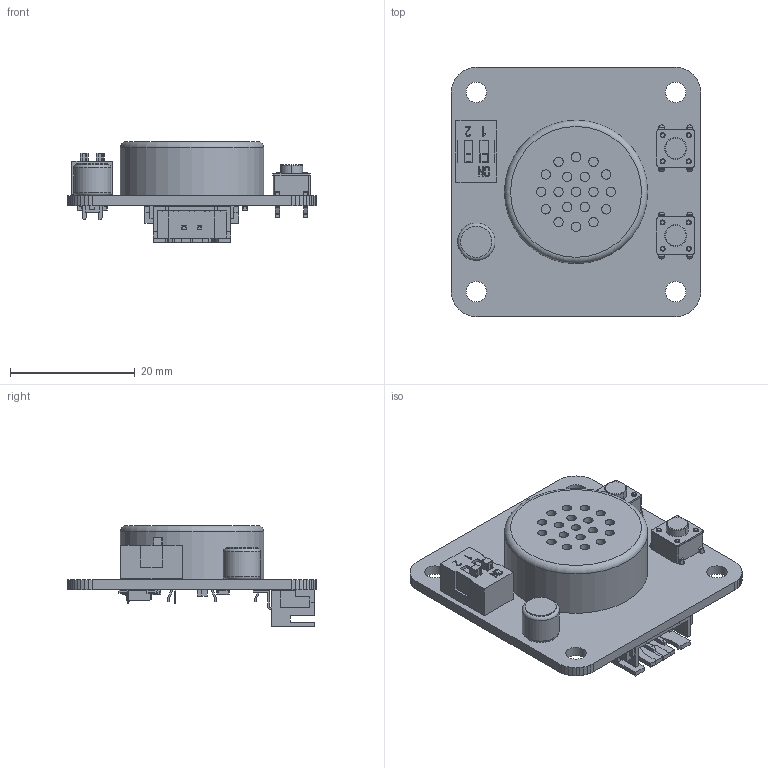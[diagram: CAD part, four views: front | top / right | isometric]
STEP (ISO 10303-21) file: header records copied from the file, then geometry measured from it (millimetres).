
FILE_DESCRIPTION(('Open CASCADE Model'),'2;1');
FILE_NAME('Open CASCADE Shape Model','2024-09-22T14:19:05',('Author'),( 'Open CASCADE'),'Open CASCADE STEP processor 6.5','Open CASCADE 6.5' ,'Unknown');
FILE_SCHEMA(('AUTOMOTIVE_DESIGN { 1 0 10303 214 1 1 1 1 }'));
Length unit declared in the file: millimetre
Products named in the file (32): PCB; Board; SPK1; 2308嶽務; R6; 0603_R; P1; 4pin-2.5; R1; R2; D1; 970576016; Extruded; 970575760; C1; User_Library-0603(1608M)_Cap; C2; C3; C4; MK1; 蛷芛6x5; R3; R4; R5; S1; User_Library-Tactile_switch_6x6x5mm; S2; S3; DIP_switch_blue; U1; SO-16
Assembly tree (40 placements, depth 4):
  PCB
    Board
    SPK1
      2308嶽務
    R6
      0603_R
    P1
      4pin-2.5
    R1
      0603_R
    R2
      0603_R
    D1
      970576016
        Extruded
      970575760
        Extruded
    C1
      User_Library-0603(1608M)_Cap
    C2
      User_Library-0603(1608M)_Cap
    C3
      User_Library-0603(1608M)_Cap
    C4
      User_Library-0603(1608M)_Cap
    MK1
      蛷芛6x5
    R3
      0603_R
    R4
      0603_R
    R5
      0603_R
    S1
      User_Library-Tactile_switch_6x6x5mm
    S2
      User_Library-Tactile_switch_6x6x5mm
    S3
      DIP_switch_blue
    U1
      SO-16
Bounding box: 40.02 x 40.02 x 16.19 mm (x, y, z)
Volume: 7283.8 mm3; surface area: 7345.1 mm2
Topology: 31 solids, 31 shells, 2038 faces, 5303 edges, 3383 vertices
Faces by surface type: plane 1151, cylinder 502, bspline 288, sphere 36, torus 31, extrusion 30
Full cylindrical faces by diameter (mm): 0.9 x4, 1 x2, 1.016 x8, 1.2 x2, 1.5 x19, 3.3 x4, 5 x1, 6 x1, 23 x1
Entity records: 105388 total; most frequent: CARTESIAN_POINT 31911, DIRECTION 11175, VECTOR 6959, ORIENTED_EDGE 6958, PCURVE 6958, DEFINITIONAL_REPRESENTATION 6958, LINE 6954, EDGE_CURVE 3479
